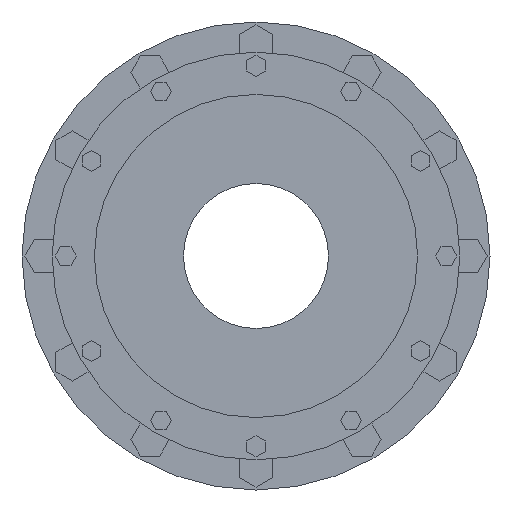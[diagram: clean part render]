
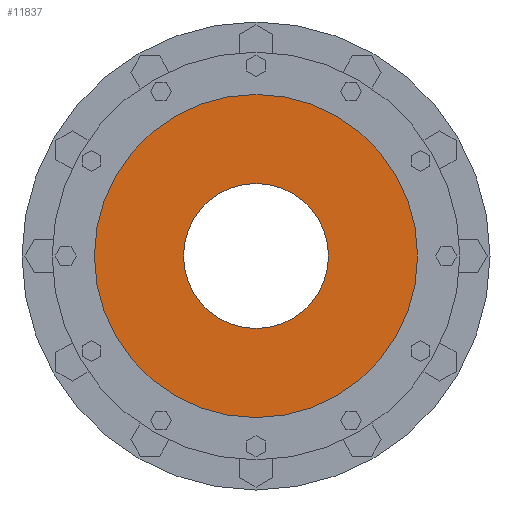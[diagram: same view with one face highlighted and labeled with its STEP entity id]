
A CAD part, left-side view. The second image highlights one B-rep face of the part: STEP entity #11837.
In plain terms, the highlighted planar face has unit normal (-1, 0, 0) as drawn and (1, 0, 0) by its records, which use the part's own axes.
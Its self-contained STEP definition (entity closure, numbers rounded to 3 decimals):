
#11661=CARTESIAN_POINT('',(-10.,0.,0.));
#11662=DIRECTION('',(1.,0.,0.));
#11663=DIRECTION('',(0.,1.,0.));
#11664=AXIS2_PLACEMENT_3D('',#11661,#11662,#11663);
#11671=CARTESIAN_POINT('',(-10.,0.,0.));
#11672=DIRECTION('',(-1.,0.,0.));
#11673=DIRECTION('',(0.,1.,0.));
#11674=AXIS2_PLACEMENT_3D('',#11671,#11672,#11673);
#11676=CARTESIAN_POINT('',(-10.,0.,0.));
#11677=DIRECTION('',(1.,0.,0.));
#11678=DIRECTION('',(0.,1.,0.));
#11679=AXIS2_PLACEMENT_3D('',#11676,#11677,#11678);
#11755=CARTESIAN_POINT('',(-10.,0.,0.));
#11756=DIRECTION('',(1.,0.,0.));
#11757=DIRECTION('',(0.,-1.,0.));
#11758=AXIS2_PLACEMENT_3D('',#11755,#11756,#11757);
#11782=CARTESIAN_POINT('',(-10.,267.5,0.));
#11784=VERTEX_POINT('',#11782);
#11786=CARTESIAN_POINT('',(-10.,-267.5,0.));
#11788=VERTEX_POINT('',#11786);
#11793=CARTESIAN_POINT('',(-10.,120.,0.));
#11794=CARTESIAN_POINT('',(-10.,-120.,0.));
#11795=VERTEX_POINT('',#11793);
#11796=VERTEX_POINT('',#11794);
#11821=CARTESIAN_POINT('',(-10.,0.,0.));
#11822=DIRECTION('',(1.,0.,0.));
#11823=DIRECTION('',(0.,-1.,0.));
#11824=AXIS2_PLACEMENT_3D('',#11821,#11822,#11823);
#11825=PLANE('',#11824);
#11827=ORIENTED_EDGE('',*,*,#11826,.T.);
#11829=ORIENTED_EDGE('',*,*,#11828,.F.);
#11830=EDGE_LOOP('',(#11827,#11829));
#11831=FACE_OUTER_BOUND('',#11830,.F.);
#11832=ORIENTED_EDGE('',*,*,#11810,.T.);
#11834=ORIENTED_EDGE('',*,*,#11833,.T.);
#11835=EDGE_LOOP('',(#11832,#11834));
#11836=FACE_BOUND('',#11835,.F.);
#11837=ADVANCED_FACE('',(#11831,#11836),#11825,.T.);
#11665=CIRCLE('',#11664,120.);
#11675=CIRCLE('',#11674,267.5);
#11680=CIRCLE('',#11679,267.5);
#11759=CIRCLE('',#11758,120.);
#11810=EDGE_CURVE('',#11795,#11796,#11665,.T.);
#11826=EDGE_CURVE('',#11784,#11788,#11675,.T.);
#11828=EDGE_CURVE('',#11784,#11788,#11680,.T.);
#11833=EDGE_CURVE('',#11796,#11795,#11759,.T.);
